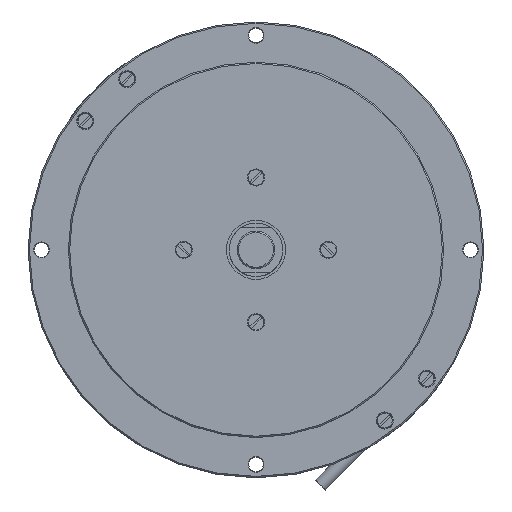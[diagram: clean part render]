
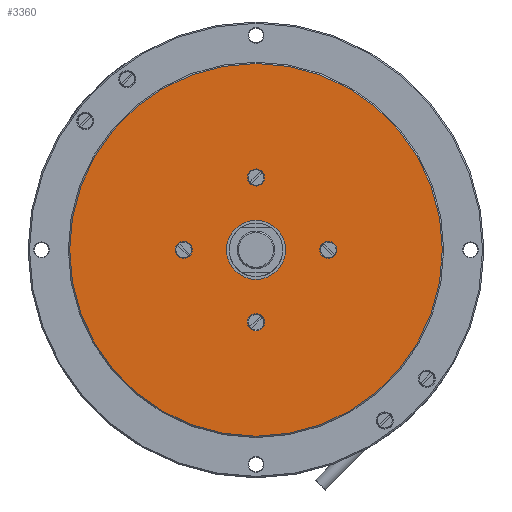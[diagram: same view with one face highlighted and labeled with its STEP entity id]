
A CAD part, top view. The second image highlights one B-rep face of the part: STEP entity #3360.
In plain terms, the highlighted planar face has unit normal (0, 0, 1).
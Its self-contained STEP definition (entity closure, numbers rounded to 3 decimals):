
#31 = EDGE_CURVE ( 'NONE', #4034, #1769, #8568, .T. ) ;
#36 = ORIENTED_EDGE ( 'NONE', *, *, #7194, .T. ) ;
#94 = CARTESIAN_POINT ( 'NONE',  ( -27., 0., -21.7 ) ) ;
#190 = AXIS2_PLACEMENT_3D ( 'NONE', #7827, #3481, #8556 ) ;
#201 = EDGE_CURVE ( 'NONE', #5623, #8446, #6185, .T. ) ;
#222 = CARTESIAN_POINT ( 'NONE',  ( -27., 0., -21.7 ) ) ;
#330 = CIRCLE ( 'NONE', #6670, 3.2 ) ;
#355 = EDGE_CURVE ( 'NONE', #2046, #6445, #1171, .T. ) ;
#463 = DIRECTION ( 'NONE',  ( 0., -1., 0. ) ) ;
#570 = DIRECTION ( 'NONE',  ( 0., 0., -1. ) ) ;
#644 = VERTEX_POINT ( 'NONE', #1165 ) ;
#647 = CARTESIAN_POINT ( 'NONE',  ( 23.8, 0., -21.7 ) ) ;
#721 = AXIS2_PLACEMENT_3D ( 'NONE', #1609, #6700, #2325 ) ;
#728 = AXIS2_PLACEMENT_3D ( 'NONE', #222, #5304, #957 ) ;
#830 = DIRECTION ( 'NONE',  ( 0., -1., 0. ) ) ;
#876 = ORIENTED_EDGE ( 'NONE', *, *, #9158, .T. ) ;
#957 = DIRECTION ( 'NONE',  ( 0., -1., 0. ) ) ;
#962 = EDGE_CURVE ( 'NONE', #5873, #5044, #2643, .T. ) ;
#1000 = CARTESIAN_POINT ( 'NONE',  ( -30.2, 0., -21.7 ) ) ;
#1073 = ORIENTED_EDGE ( 'NONE', *, *, #2481, .T. ) ;
#1129 = ORIENTED_EDGE ( 'NONE', *, *, #5456, .T. ) ;
#1165 = CARTESIAN_POINT ( 'NONE',  ( -23.8, 0., -21.7 ) ) ;
#1171 = CIRCLE ( 'NONE', #7510, 11. ) ;
#1200 = CARTESIAN_POINT ( 'NONE',  ( -3.2, 27., -21.7 ) ) ;
#1230 = VERTEX_POINT ( 'NONE', #647 ) ;
#1273 = CIRCLE ( 'NONE', #721, 3.2 ) ;
#1397 = DIRECTION ( 'NONE',  ( 0., 0., 1. ) ) ;
#1589 = DIRECTION ( 'NONE',  ( 0., 0., 1. ) ) ;
#1609 = CARTESIAN_POINT ( 'NONE',  ( 0., 27., -21.7 ) ) ;
#1652 = DIRECTION ( 'NONE',  ( 0., -1., 0. ) ) ;
#1661 = FACE_BOUND ( 'NONE', #3956, .T. ) ;
#1665 = AXIS2_PLACEMENT_3D ( 'NONE', #5936, #1589, #6677 ) ;
#1719 = CARTESIAN_POINT ( 'NONE',  ( 0., -11., -21.7 ) ) ;
#1769 = VERTEX_POINT ( 'NONE', #1200 ) ;
#1873 = FACE_BOUND ( 'NONE', #3623, .T. ) ;
#1912 = EDGE_LOOP ( 'NONE', ( #36, #876 ) ) ;
#1977 = CARTESIAN_POINT ( 'NONE',  ( -3.2, -27., -21.7 ) ) ;
#2046 = VERTEX_POINT ( 'NONE', #1719 ) ;
#2135 = AXIS2_PLACEMENT_3D ( 'NONE', #6516, #2159, #7242 ) ;
#2159 = DIRECTION ( 'NONE',  ( 0., 0., -1. ) ) ;
#2288 = CARTESIAN_POINT ( 'NONE',  ( 0., 0., -21.7 ) ) ;
#2325 = DIRECTION ( 'NONE',  ( 0., -1., 0. ) ) ;
#2481 = EDGE_CURVE ( 'NONE', #8446, #5623, #8361, .T. ) ;
#2643 = CIRCLE ( 'NONE', #6664, 3.2 ) ;
#2755 = FACE_BOUND ( 'NONE', #4850, .T. ) ;
#3017 = DIRECTION ( 'NONE',  ( 0., -1., 0. ) ) ;
#3051 = CARTESIAN_POINT ( 'NONE',  ( 0., -70., -21.7 ) ) ;
#3107 = CIRCLE ( 'NONE', #728, 3.2 ) ;
#3132 = VERTEX_POINT ( 'NONE', #7933 ) ;
#3208 = ORIENTED_EDGE ( 'NONE', *, *, #4500, .F. ) ;
#3275 = DIRECTION ( 'NONE',  ( 0., 0., -1. ) ) ;
#3360 = ADVANCED_FACE ( 'NONE', ( #1661, #1873, #2755, #9125, #4225, #7261 ), #5256, .T. ) ;
#3481 = DIRECTION ( 'NONE',  ( 0., 0., -1. ) ) ;
#3623 = EDGE_LOOP ( 'NONE', ( #5278, #9163 ) ) ;
#3718 = EDGE_CURVE ( 'NONE', #1230, #3132, #9272, .T. ) ;
#3826 = ORIENTED_EDGE ( 'NONE', *, *, #962, .T. ) ;
#3951 = CARTESIAN_POINT ( 'NONE',  ( 0., 11., -21.7 ) ) ;
#3956 = EDGE_LOOP ( 'NONE', ( #5366, #3826 ) ) ;
#3987 = CIRCLE ( 'NONE', #4069, 3.2 ) ;
#4034 = VERTEX_POINT ( 'NONE', #8523 ) ;
#4058 = EDGE_CURVE ( 'NONE', #5044, #5873, #5669, .T. ) ;
#4065 = EDGE_LOOP ( 'NONE', ( #1073, #6829 ) ) ;
#4069 = AXIS2_PLACEMENT_3D ( 'NONE', #7626, #3275, #8352 ) ;
#4172 = EDGE_LOOP ( 'NONE', ( #7498, #3208 ) ) ;
#4225 = FACE_OUTER_BOUND ( 'NONE', #4065, .T. ) ;
#4330 = DIRECTION ( 'NONE',  ( 0., 0., 1. ) ) ;
#4500 = EDGE_CURVE ( 'NONE', #6445, #2046, #7027, .T. ) ;
#4815 = DIRECTION ( 'NONE',  ( 0., 0., -1. ) ) ;
#4850 = EDGE_LOOP ( 'NONE', ( #8536, #1129 ) ) ;
#4932 = CARTESIAN_POINT ( 'NONE',  ( 0., -27., -21.7 ) ) ;
#5044 = VERTEX_POINT ( 'NONE', #6047 ) ;
#5174 = DIRECTION ( 'NONE',  ( 0., 0., -1. ) ) ;
#5256 = PLANE ( 'NONE',  #8834 ) ;
#5278 = ORIENTED_EDGE ( 'NONE', *, *, #6491, .T. ) ;
#5304 = DIRECTION ( 'NONE',  ( 0., 0., -1. ) ) ;
#5313 = CARTESIAN_POINT ( 'NONE',  ( 0., 69.5, -21.7 ) ) ;
#5337 = CARTESIAN_POINT ( 'NONE',  ( 0., -69.5, -21.7 ) ) ;
#5366 = ORIENTED_EDGE ( 'NONE', *, *, #4058, .T. ) ;
#5456 = EDGE_CURVE ( 'NONE', #1769, #4034, #1273, .T. ) ;
#5623 = VERTEX_POINT ( 'NONE', #5337 ) ;
#5669 = CIRCLE ( 'NONE', #9419, 3.2 ) ;
#5670 = DIRECTION ( 'NONE',  ( 0., -1., 0. ) ) ;
#5750 = CARTESIAN_POINT ( 'NONE',  ( 0., 0., -21.7 ) ) ;
#5873 = VERTEX_POINT ( 'NONE', #1977 ) ;
#5936 = CARTESIAN_POINT ( 'NONE',  ( 0., 0., -21.7 ) ) ;
#6009 = DIRECTION ( 'NONE',  ( 0., 0., 1. ) ) ;
#6047 = CARTESIAN_POINT ( 'NONE',  ( 3.2, -27., -21.7 ) ) ;
#6185 = CIRCLE ( 'NONE', #1665, 69.5 ) ;
#6445 = VERTEX_POINT ( 'NONE', #3951 ) ;
#6484 = DIRECTION ( 'NONE',  ( 0., -1., 0. ) ) ;
#6491 = EDGE_CURVE ( 'NONE', #3132, #1230, #3987, .T. ) ;
#6516 = CARTESIAN_POINT ( 'NONE',  ( 27., 0., -21.7 ) ) ;
#6663 = AXIS2_PLACEMENT_3D ( 'NONE', #2288, #7378, #3017 ) ;
#6664 = AXIS2_PLACEMENT_3D ( 'NONE', #9159, #4815, #463 ) ;
#6670 = AXIS2_PLACEMENT_3D ( 'NONE', #94, #5174, #830 ) ;
#6677 = DIRECTION ( 'NONE',  ( 0., -1., 0. ) ) ;
#6700 = DIRECTION ( 'NONE',  ( 0., 0., -1. ) ) ;
#6829 = ORIENTED_EDGE ( 'NONE', *, *, #201, .T. ) ;
#7027 = CIRCLE ( 'NONE', #6663, 11. ) ;
#7194 = EDGE_CURVE ( 'NONE', #644, #8773, #3107, .T. ) ;
#7242 = DIRECTION ( 'NONE',  ( 0., -1., 0. ) ) ;
#7255 = AXIS2_PLACEMENT_3D ( 'NONE', #8681, #4330, #9397 ) ;
#7261 = FACE_BOUND ( 'NONE', #4172, .T. ) ;
#7378 = DIRECTION ( 'NONE',  ( 0., 0., 1. ) ) ;
#7498 = ORIENTED_EDGE ( 'NONE', *, *, #355, .F. ) ;
#7510 = AXIS2_PLACEMENT_3D ( 'NONE', #5750, #1397, #6484 ) ;
#7626 = CARTESIAN_POINT ( 'NONE',  ( 27., 0., -21.7 ) ) ;
#7827 = CARTESIAN_POINT ( 'NONE',  ( 0., 27., -21.7 ) ) ;
#7933 = CARTESIAN_POINT ( 'NONE',  ( 30.2, 0., -21.7 ) ) ;
#8352 = DIRECTION ( 'NONE',  ( 0., -1., 0. ) ) ;
#8361 = CIRCLE ( 'NONE', #7255, 69.5 ) ;
#8446 = VERTEX_POINT ( 'NONE', #5313 ) ;
#8523 = CARTESIAN_POINT ( 'NONE',  ( 3.2, 27., -21.7 ) ) ;
#8536 = ORIENTED_EDGE ( 'NONE', *, *, #31, .T. ) ;
#8556 = DIRECTION ( 'NONE',  ( 0., -1., 0. ) ) ;
#8568 = CIRCLE ( 'NONE', #190, 3.2 ) ;
#8681 = CARTESIAN_POINT ( 'NONE',  ( 0., 0., -21.7 ) ) ;
#8773 = VERTEX_POINT ( 'NONE', #1000 ) ;
#8834 = AXIS2_PLACEMENT_3D ( 'NONE', #3051, #6009, #1652 ) ;
#9125 = FACE_BOUND ( 'NONE', #1912, .T. ) ;
#9158 = EDGE_CURVE ( 'NONE', #8773, #644, #330, .T. ) ;
#9159 = CARTESIAN_POINT ( 'NONE',  ( 0., -27., -21.7 ) ) ;
#9163 = ORIENTED_EDGE ( 'NONE', *, *, #3718, .T. ) ;
#9272 = CIRCLE ( 'NONE', #2135, 3.2 ) ;
#9397 = DIRECTION ( 'NONE',  ( 0., -1., 0. ) ) ;
#9419 = AXIS2_PLACEMENT_3D ( 'NONE', #4932, #570, #5670 ) ;
